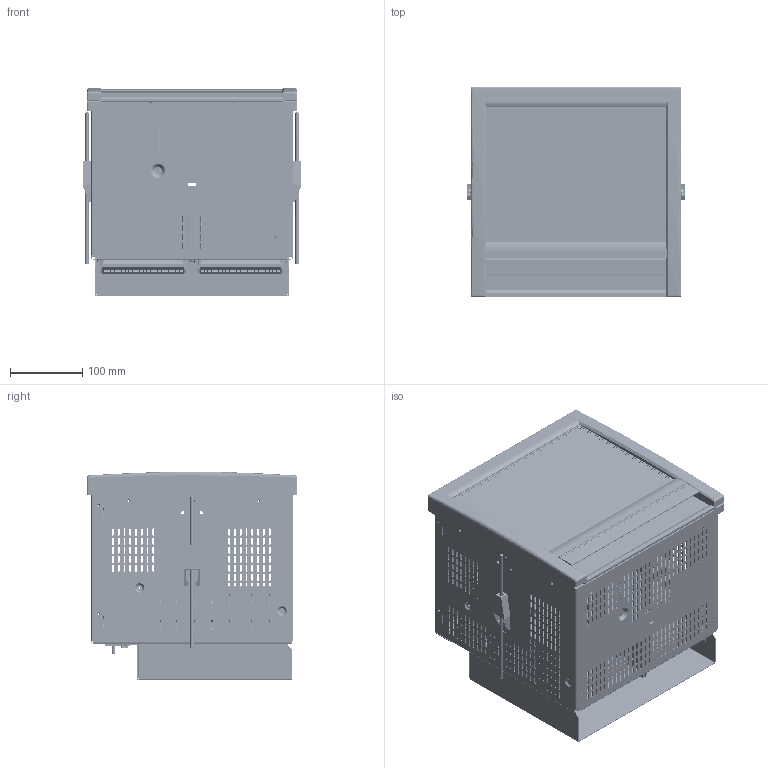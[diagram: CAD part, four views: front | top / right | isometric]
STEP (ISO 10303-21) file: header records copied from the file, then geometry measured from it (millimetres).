
FILE_DESCRIPTION((''),'2;1');
FILE_NAME('6180_IGESFILE','2012-02-20T',('chrisloe'),(''),'PRO/ENGINEER BY PARAMETRIC TECHNOLOGY CORPORATION, 2010180','PRO/ENGINEER BY PARAMETRIC TECHNOLOGY CORPORATION, 2010180','');
FILE_SCHEMA(('CONFIG_CONTROL_DESIGN'));
Products named in the file (1): 6180_IGESFILE
Bounding box: 303 x 292 x 288.74 mm (x, y, z)
Volume: 2086332 mm3; surface area: 1699324.7 mm2
Topology: 4 solids, 55 shells, 13078 faces, 35376 edges, 22200 vertices
Faces by surface type: plane 8221, cylinder 4455, cone 226, torus 132, bspline 34, sphere 10
Entity records: 413930 total; most frequent: CARTESIAN_POINT 73927, DIRECTION 70665, ORIENTED_EDGE 70572, EDGE_CURVE 35364, VECTOR 25267, LINE 25267, AXIS2_PLACEMENT_3D 22699, VERTEX_POINT 22332
